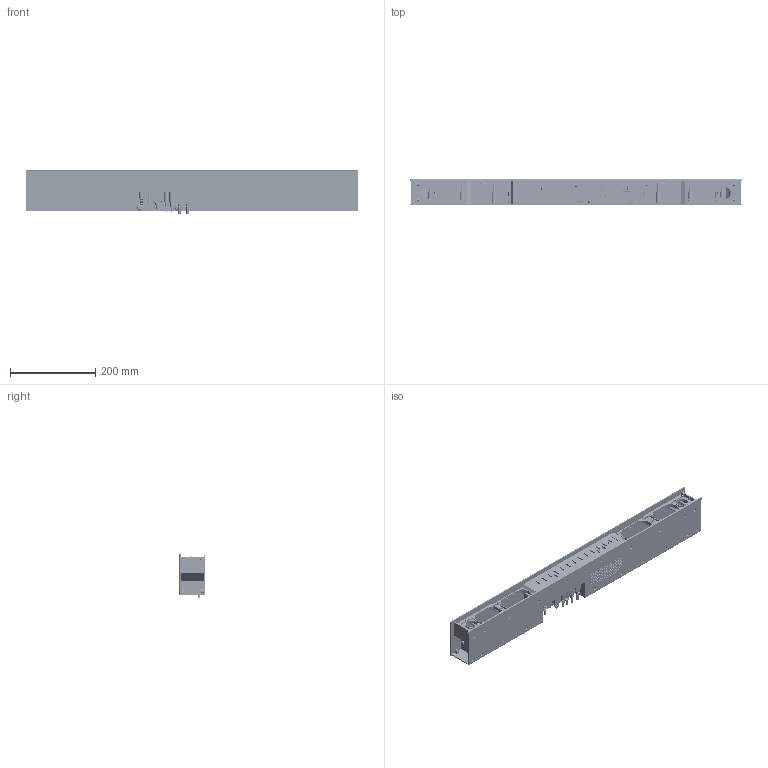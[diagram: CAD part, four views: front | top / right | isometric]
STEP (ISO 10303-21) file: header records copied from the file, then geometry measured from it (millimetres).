
FILE_DESCRIPTION((''),'2;1');
FILE_NAME('ME-SHERMAL-20200729_ASM_ASM','2020-07-29T',('G6003023'),(''),'PRO/ENGINEER BY PARAMETRIC TECHNOLOGY CORPORATION, 2013150','PRO/ENGINEER BY PARAMETRIC TECHNOLOGY CORPORATION, 2013150','');
FILE_SCHEMA(('CONFIG_CONTROL_DESIGN'));
Products named in the file (134): CASE_TOP_UA300_3_1_7; BUTTON_DESIGN_20200626_1_1_1; BUTTON_FUNCTION_UA300_1_1_1; BUTTON_PCB_15_1_1_1; TACT_SWITCH_3_1_1_1; MSBR-13-001_1_1_1_1_1; MSBR-12-001_1_1_1_1_1; MSBR-11-001_1_1_1_1_1; MSBR-10-001_1_1_1_1_1; MSBR-9-001_1_1_1_1_1; MSBR-8-001_1_1_1_1_1; MSBR-7-001_1_1_1_1_1; MSBR-6-001_1_1_1_1_1; MSBR-5-001_1_1_1_1_1; MSBR-4-001_1_1_1_1_1; MSBR-3-001_1_1_1_1_1; MSBR-2-001_1_1_1_1_1; MSBR-1-001_1_1_1_1_1; HS6110E-10PIN_ASM_2_1_ASM_1_ASM_ASM; BUTTON_PCB_ASSY_ASM_11_ASM_1_AS_ASM; BUTTON_PCB_ASSY_20200717_ASM_1__ASM; BUTTON_PCB_16_1_1_1; TACT_SWITCH_3_1_1_1_1; MSBR-13-001_1_1_2_1_1_1; MSBR-12-001_1_1_2_1_1_1; MSBR-11-001_1_1_2_1_1_1; MSBR-10-001_1_1_2_1_1_1; MSBR-9-001_1_1_2_1_1_1; MSBR-8-001_1_1_2_1_1_1; MSBR-7-001_1_1_2_1_1_1; MSBR-6-001_1_1_2_1_1_1; MSBR-5-001_1_1_2_1_1_1; MSBR-4-001_1_1_2_1_1_1; MSBR-3-001_1_1_2_1_1_1; MSBR-2-001_1_1_2_1_1_1; MSBR-1-001_1_1_2_1_1_1; HS6110E-10PIN_ASM_2_1_2_ASM_1_A_ASM; BUTTON_PCB_ASSY_ASM_12_ASM_1_AS_ASM; BUTTON_PCB_ASSY_20200720_ASM_1__ASM; SCREW_TTS_3_7_1_1_2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
Assembly tree (222 placements, depth 9):
  ME-SHERMAL-20200729_ASM_ASM
    INKEL_BAR_730_ASM_94_ASM
      BFX_UA300_ASM_MOCKUP_REV00_ASM__ASM
        BFX_UA300_ASM_15_ASM_1_ASM_5_ASM
          CASE_TOP_ASSY_UA300_ASM_2_ASM_1_ASM
            CASE_TOP_UA300_3_1_7
            BUTTON_DESIGN_20200626_1_1_1
            BUTTON_FUNCTION_UA300_1_1_1
            BUTTON_PCB_ASSY_20200717_ASM_1__ASM
              BUTTON_PCB_ASSY_ASM_11_ASM_1_AS_ASM
                BUTTON_PCB_15_1_1_1
                TACT_SWITCH_3_1_1_1  x8
                HS6110E-10PIN_ASM_2_1_ASM_1_ASM_ASM
                  MSBR-13-001_1_1_1_1_1
                  MSBR-12-001_1_1_1_1_1
                  MSBR-11-001_1_1_1_1_1
                  MSBR-10-001_1_1_1_1_1
                  MSBR-9-001_1_1_1_1_1
                  MSBR-8-001_1_1_1_1_1
                  MSBR-7-001_1_1_1_1_1
                  MSBR-6-001_1_1_1_1_1
                  MSBR-5-001_1_1_1_1_1
                  MSBR-4-001_1_1_1_1_1
                  MSBR-3-001_1_1_1_1_1
                  MSBR-2-001_1_1_1_1_1
                  MSBR-1-001_1_1_1_1_1
            BUTTON_PCB_ASSY_20200720_ASM_1__ASM
              BUTTON_PCB_ASSY_ASM_12_ASM_1_AS_ASM
                BUTTON_PCB_16_1_1_1
                TACT_SWITCH_3_1_1_1_1  x8
                HS6110E-10PIN_ASM_2_1_2_ASM_1_A_ASM
                  MSBR-13-001_1_1_2_1_1_1
                  MSBR-12-001_1_1_2_1_1_1
                  MSBR-11-001_1_1_2_1_1_1
                  MSBR-10-001_1_1_2_1_1_1
                  MSBR-9-001_1_1_2_1_1_1
                  MSBR-8-001_1_1_2_1_1_1
                  MSBR-7-001_1_1_2_1_1_1
                  MSBR-6-001_1_1_2_1_1_1
                  MSBR-5-001_1_1_2_1_1_1
                  MSBR-4-001_1_1_2_1_1_1
                  MSBR-3-001_1_1_2_1_1_1
                  MSBR-2-001_1_1_2_1_1_1
                  MSBR-1-001_1_1_2_1_1_1
            SCREW_TTS_3_7_1_1_2  x16
            SCREW_TTS_3_10_1_1_1  x3
            MIC_PCB_ASSY_CURVED-20200715_AS_ASM
              MIC_PCB_ASSY_ASM_19_ASM_1_ASM_1_ASM
                MIC_PCB_17_1_1_1
                SPM0687LR5X_REV_1_SW_1_1_1_1  x4
                HS6110E-10PIN_ASM_15_ASM_1_ASM__ASM
                  MSBR-13-001_1_1_2_1_1_1
                  MSBR-12-001_1_1_2_1_1_1
                  MSBR-11-001_1_1_2_1_1_1
                  MSBR-10-001_1_1_2_1_1_1
                  MSBR-9-001_1_1_2_1_1_1
                  MSBR-8-001_1_1_2_1_1_1
                  MSBR-7-001_1_1_2_1_1_1
                  MSBR-6-001_1_1_2_1_1_1
                  MSBR-5-001_1_1_2_1_1_1
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Bounding box: 779.96 x 60.8 x 101.68 mm (x, y, z)
Volume: 999276.2 mm3; surface area: 895030.7 mm2
Topology: 210 solids, 231 shells, 19650 faces, 54818 edges, 36002 vertices
Faces by surface type: plane 13130, cylinder 4964, bspline 750, cone 353, torus 165, sphere 152, extrusion 136
Entity records: 469947 total; most frequent: CARTESIAN_POINT 112042, ORIENTED_EDGE 76176, DIRECTION 71456, EDGE_CURVE 38088, VECTOR 28408, LINE 28284, VERTEX_POINT 25162, AXIS2_PLACEMENT_3D 21524
